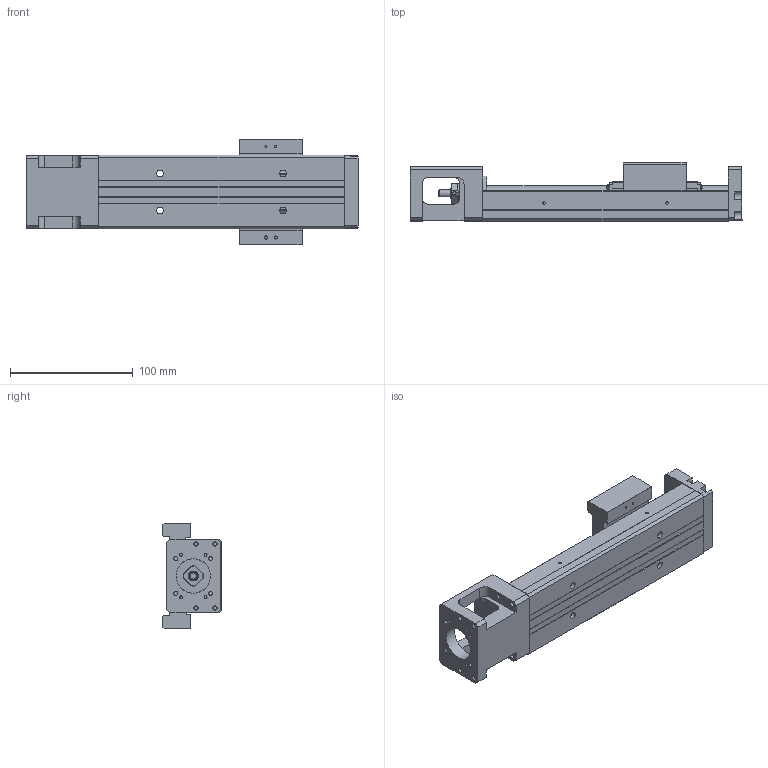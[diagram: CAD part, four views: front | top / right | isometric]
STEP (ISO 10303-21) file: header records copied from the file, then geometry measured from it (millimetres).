
FILE_DESCRIPTION(/* description */ (''),/* implementation_level */ '2;1');
FILE_NAME(/* name */ '33L-200.stp',/* time_stamp */ '2016-12-20T13:25:42+08:00',/* author */ (''),/* organization */ (''),/* preprocessor_version */ 'ST-DEVELOPER v11',/* originating_system */ 'SIEMENS UGS NX 6.0',/* authorisation */ '');
FILE_SCHEMA (('AUTOMOTIVE_DESIGN { 1 0 10303 214 1 1 1 1 }'));
Length unit declared in the file: millimetre
Products named in the file (1): model4
Bounding box: 270 x 47.95 x 86 mm (x, y, z)
Volume: 413362.5 mm3; surface area: 115102.5 mm2
Topology: 6 solids, 11 shells, 669 faces, 1697 edges, 1120 vertices
Faces by surface type: plane 400, cylinder 182, bspline 31, cone 24, extrusion 21, torus 9, revolution 2
Full cylindrical faces by diameter (mm): 1.6 x3, 1.65 x4, 2.15 x2, 2.42 x4, 2.45 x4, 2.5 x14, 3 x3, 3.2 x4, 3.3 x4, 3.4 x3, 3.5 x10, 3.969 x1, 4 x6, 4.001 x1, 4.135 x4, 4.2 x4, 5.5 x4, 6 x5, 7.6 x1, 8 x5, 9.5 x4, 10.72 x3, 11.8 x2, 12 x6, 12.8 x1, 13 x2, 14 x1, 17.38 x3, 21.5 x1, 22 x2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
Entity records: 35254 total; most frequent: CARTESIAN_POINT 16275, DIRECTION 3030, ORIENTED_EDGE 2954, EDGE_CURVE 1477, AXIS2_PLACEMENT_3D 1056, VERTEX_POINT 1047, EDGE_LOOP 940, VECTOR 916
